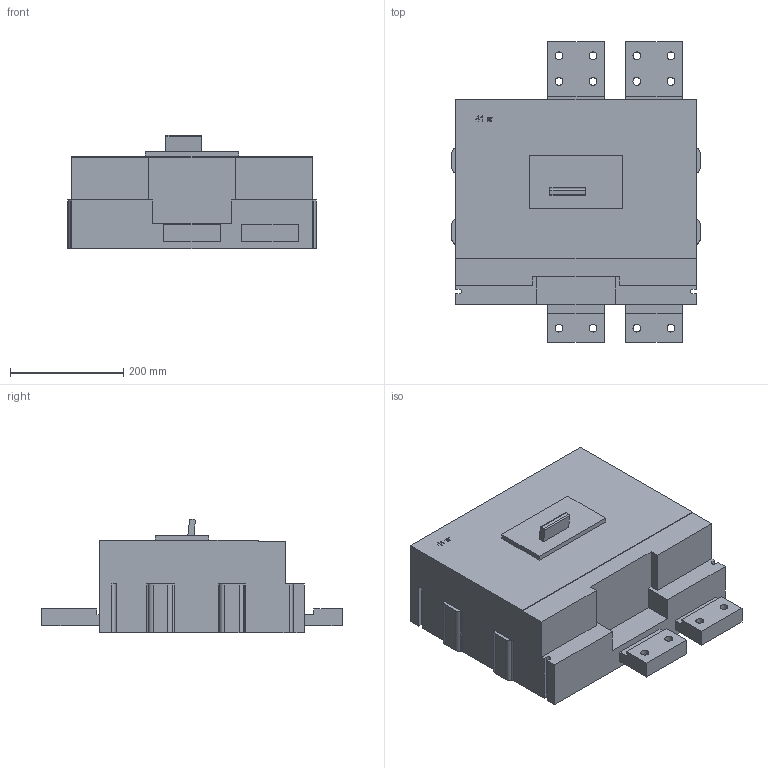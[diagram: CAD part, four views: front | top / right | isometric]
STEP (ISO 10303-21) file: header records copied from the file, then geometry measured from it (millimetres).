
FILE_DESCRIPTION (( 'STEP AP214' ), '1' );
FILE_NAME ('ﾂﾀ 56-43 DC 2000ﾀ.STEP', '2023-02-10T05:22:54', ( '' ), ( '' ), 'SwSTEP 2.0', 'SolidWorks 2018', '' );
FILE_SCHEMA (( 'AUTOMOTIVE_DESIGN' ));
Length unit declared in the file: millimetre
Products named in the file (1): ﾂﾀ 56-43 DC 2000ﾀ
Bounding box: 438 x 530 x 200.19 mm (x, y, z)
Volume: 24575430.4 mm3; surface area: 689030 mm2
Topology: 1 solids, 1 shells, 123 faces, 387 edges, 277 vertices
Faces by surface type: plane 89, cylinder 34
Full cylindrical faces by diameter (mm): 14 x12
Entity records: 4387 total; most frequent: CARTESIAN_POINT 854, ORIENTED_EDGE 726, DIRECTION 670, EDGE_CURVE 363, VECTOR 286, LINE 286, VERTEX_POINT 265, AXIS2_PLACEMENT_3D 192
